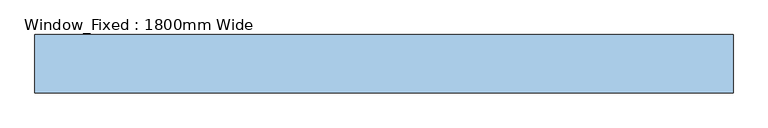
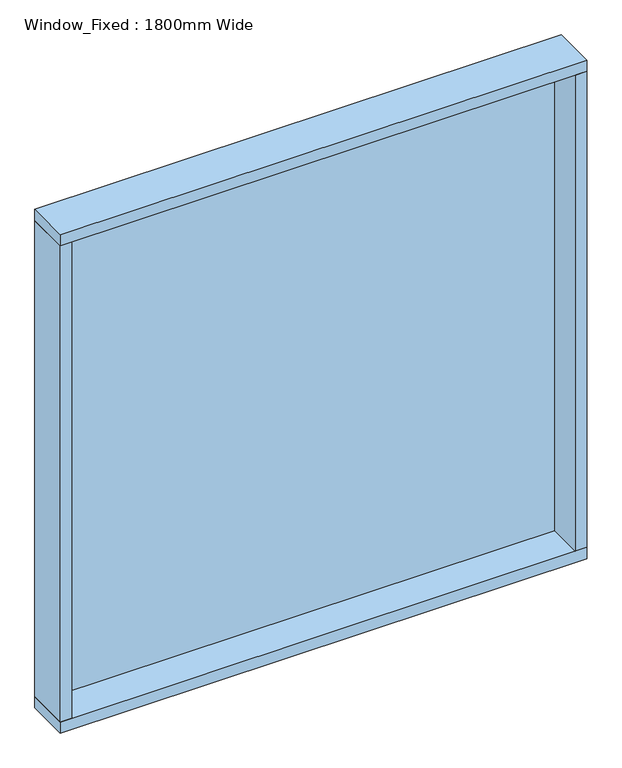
"""IFC4 building model written with IfcOpenShell, lengths in millimetres: window geometry, Window_Fixed : 1800mm Wide."""

from ifc_helpers import new_model, si_unit, frame, origin, place, context, project, spatial, polyline, outline, extrude, source, transform, mapped, element, save


def window_fixed_1800mm_wide_fccb3e1f(model_context):
    return source(origin(), model_context, "Body", "SweptSolid", [
        extrude(outline(polyline([(860.0, 85.0), (860.0, 73.0), (-860.0, 73.0), (-860.0, 85.0), (860.0, 85.0)])), frame((0.0, 0.0, 290.0), z_axis=(0.0, 0.0, 1.0), x_axis=(1.0, 0.0, 0.0)), (0.0, 0.0, 1.0), 1720.0),
        extrude(outline(polyline([(900.0, 100.0), (900.0, -50.0), (-900.0, -50.0), (-900.0, 100.0), (900.0, 100.0)])), frame((0.0, 0.0, 2010.0), z_axis=(0.0, 0.0, 1.0), x_axis=(1.0, 0.0, 0.0)), (0.0, 0.0, 1.0), 40.0),
        extrude(outline(polyline([(900.0, 100.0), (900.0, -50.0), (-900.0, -50.0), (-900.0, 100.0), (900.0, 100.0)])), frame((0.0, 0.0, 250.0), z_axis=(0.0, 0.0, 1.0), x_axis=(1.0, 0.0, 0.0)), (0.0, 0.0, 1.0), 40.0),
        extrude(outline(polyline([(-860.0, -50.0), (-900.0, -50.0), (-900.0, 100.0), (-860.0, 100.0), (-860.0, -50.0)])), frame((0.0, 0.0, 290.0), z_axis=(0.0, 0.0, 1.0), x_axis=(1.0, 0.0, 0.0)), (0.0, 0.0, 1.0), 1720.0),
        extrude(outline(polyline([(860.0, -50.0), (860.0, 100.0), (900.0, 100.0), (900.0, -50.0), (860.0, -50.0)])), frame((0.0, 0.0, 290.0), z_axis=(0.0, 0.0, 1.0), x_axis=(1.0, 0.0, 0.0)), (0.0, 0.0, 1.0), 1720.0),
    ])


if __name__ == "__main__":
    model = new_model("IFC4")
    model_context = context("Model", 3, world=origin())
    ifc_project = project(units=[si_unit("LENGTHUNIT", "METRE", prefix="MILLI")], contexts=[model_context])
    site = spatial("IfcSite", under=ifc_project)
    building = spatial("IfcBuilding", under=site)
    placement = place(None, origin())
    window_fixed_1800mm_wide_shape = window_fixed_1800mm_wide_fccb3e1f(model_context)
    element("IfcWindow", 1, ObjectType="Window_Fixed : 1800mm Wide", at=placement, inside=building, context=model_context, shape_type="MappedRepresentation", body=[
        mapped(window_fixed_1800mm_wide_shape, transform((0.0, 0.0, 0.0), x_axis=(1.0, 0.0, 0.0), y_axis=(0.0, 1.0, 0.0), z_axis=(0.0, 0.0, 1.0))),
    ])
    save(model, "model.ifc")
